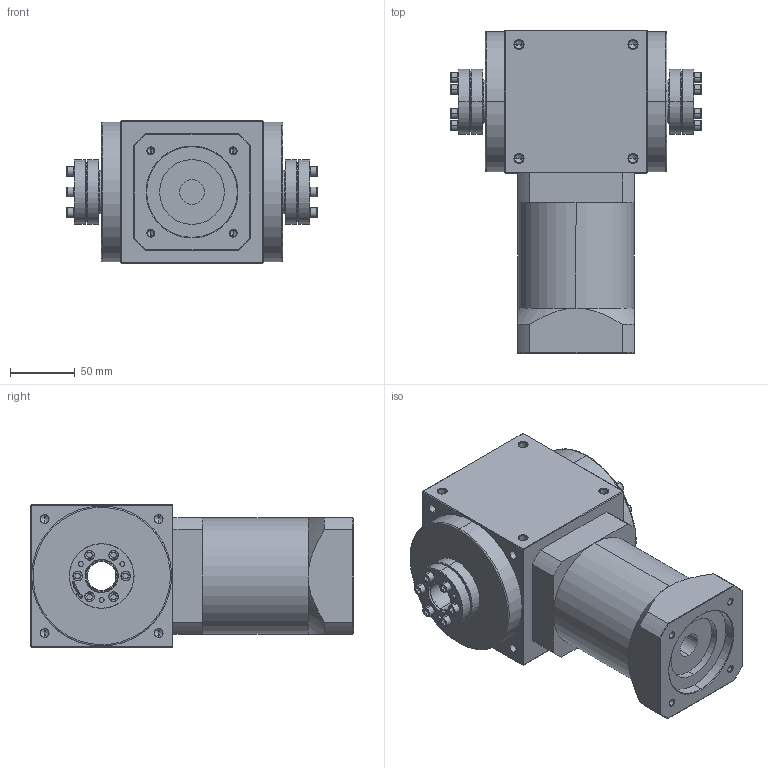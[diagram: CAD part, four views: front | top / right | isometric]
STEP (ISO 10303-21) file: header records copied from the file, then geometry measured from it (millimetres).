
FILE_DESCRIPTION (( 'STEP AP214' ), '1' );
FILE_NAME ('AT110-FC-35 19-70-90-M6.STEP', '2021-04-24T06:25:08', ( 'Microsoft' ), ( 'Microsoft China' ), 'SwSTEP 2.0', 'SolidWorks 2016', '' );
FILE_SCHEMA (( 'AUTOMOTIVE_DESIGN' ));
Length unit declared in the file: millimetre
Products named in the file (3): 83_24x50; AT110-FC-35 19-70-90-M6; AT110-FC-L2--19-70-90-m6
Assembly tree (3 placements, depth 2):
  AT110-FC-35 19-70-90-M6
    AT110-FC-L2--19-70-90-m6
    83_24x50  x2
Bounding box: 193 x 249.5 x 110 mm (x, y, z)
Volume: 2518835.8 mm3; surface area: 187056.6 mm2
Topology: 21 solids, 21 shells, 1034 faces, 2394 edges, 1406 vertices
Faces by surface type: cylinder 452, plane 272, cone 218, torus 80, bspline 12
Entity records: 18675 total; most frequent: CARTESIAN_POINT 4133, DIRECTION 3088, ORIENTED_EDGE 2944, EDGE_CURVE 1472, AXIS2_PLACEMENT_3D 1189, VERTEX_POINT 880, EDGE_LOOP 740, VECTOR 710
